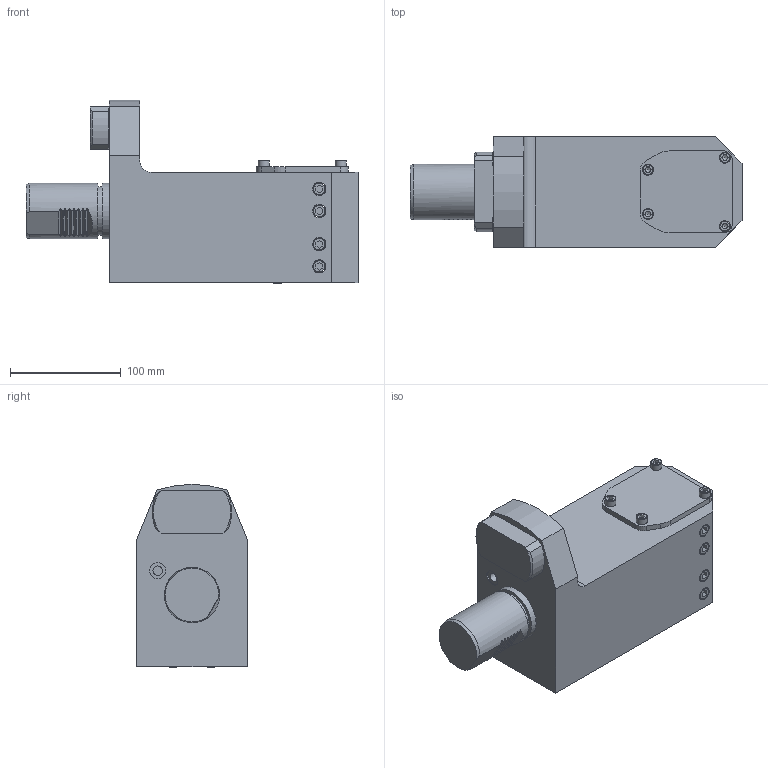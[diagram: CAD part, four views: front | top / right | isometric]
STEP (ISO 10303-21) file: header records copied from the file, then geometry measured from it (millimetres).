
FILE_DESCRIPTION(/* description */ (''),/* implementation_level */ '2;1');
FILE_NAME(/* name */ '118021',/* time_stamp */ '2020-10-01T15:07:53+02:00',/* author */ (''),/* organization */ (''),/* preprocessor_version */ 'ST-DEVELOPER v16.5',/* originating_system */ 'HiCAD 2017 2201.0 Build 268',/* authorisation */ '');
FILE_SCHEMA (('AUTOMOTIVE_DESIGN { 1 0 10303 214 1 1 1 1 }'));
Length unit declared in the file: millimetre
Products named in the file (2): Root; Teil
Assembly tree (1 placements, depth 2):
  Root
    Teil
Bounding box: 300 x 100 x 165.66 mm (x, y, z)
Volume: 2351701.9 mm3; surface area: 167476 mm2
Topology: 9 solids, 9 shells, 261 faces, 643 edges, 418 vertices
Faces by surface type: plane 180, cylinder 58, cone 17, torus 4, sphere 2
Full cylindrical faces by diameter (mm): 8.5 x9, 10 x4, 10.2 x8, 12 x8, 14.27 x1, 43.8 x1, 50 x3
Entity records: 13239 total; most frequent: CARTESIAN_POINT 1814, DIRECTION 1204, PRESENTATION_STYLE_ASSIGNMENT 1117, COLOUR_RGB 1117, DRAUGHTING_PRE_DEFINED_CURVE_FONT 1116, CURVE_STYLE 1116, OVER_RIDING_STYLED_ITEM 1116, ORIENTED_EDGE 1116
